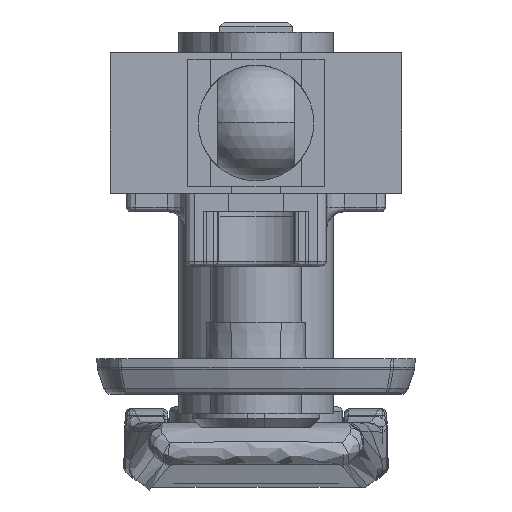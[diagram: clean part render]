
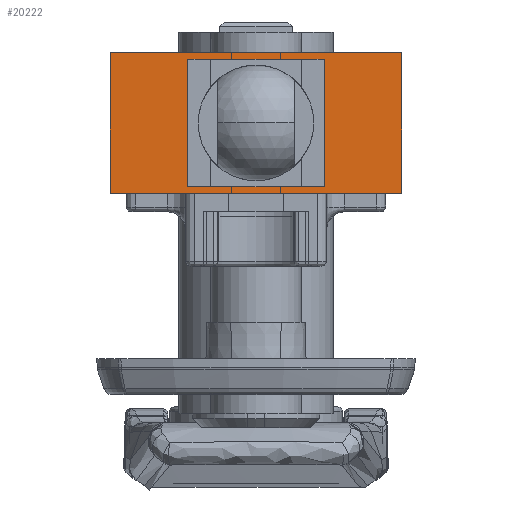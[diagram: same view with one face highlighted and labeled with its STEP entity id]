
A CAD part, front view. The second image highlights one B-rep face of the part: STEP entity #20222.
In plain terms, the highlighted planar face has unit normal (0, -1, 0).
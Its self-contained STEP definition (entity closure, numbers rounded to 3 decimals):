
#1368 = ORIENTED_EDGE ( 'NONE', *, *, #2451, .T. ) ;
#1449 = DIRECTION ( 'NONE',  ( 0., 0., -1. ) ) ;
#1734 = DIRECTION ( 'NONE',  ( 0., 0., 1. ) ) ;
#2254 = VERTEX_POINT ( 'NONE', #7451 ) ;
#2315 = VERTEX_POINT ( 'NONE', #16080 ) ;
#2451 = EDGE_CURVE ( 'NONE', #2254, #12411, #14406, .T. ) ;
#3872 = LINE ( 'NONE', #14252, #30225 ) ;
#4272 = CARTESIAN_POINT ( 'NONE',  ( 16., -199.25, 7.75 ) ) ;
#4426 = LINE ( 'NONE', #7315, #8705 ) ;
#4804 = CARTESIAN_POINT ( 'NONE',  ( 16., -199.25, 7.75 ) ) ;
#5233 = EDGE_CURVE ( 'NONE', #2254, #26938, #28919, .T. ) ;
#5247 = VERTEX_POINT ( 'NONE', #18907 ) ;
#5376 = VECTOR ( 'NONE', #15181, 1000. ) ;
#5569 = EDGE_CURVE ( 'NONE', #33054, #5247, #26478, .T. ) ;
#5647 = CARTESIAN_POINT ( 'NONE',  ( -16., -199.25, -7.75 ) ) ;
#7026 = VERTEX_POINT ( 'NONE', #23401 ) ;
#7315 = CARTESIAN_POINT ( 'NONE',  ( 7., -199.25, 6.25 ) ) ;
#7451 = CARTESIAN_POINT ( 'NONE',  ( -16., -199.25, 7.75 ) ) ;
#7518 = ORIENTED_EDGE ( 'NONE', *, *, #24883, .T. ) ;
#8705 = VECTOR ( 'NONE', #1734, 1000. ) ;
#8793 = DIRECTION ( 'NONE',  ( 0., 1., 0. ) ) ;
#8968 = CARTESIAN_POINT ( 'NONE',  ( -16., -199.25, -7.75 ) ) ;
#11487 = ORIENTED_EDGE ( 'NONE', *, *, #12045, .F. ) ;
#11516 = DIRECTION ( 'NONE',  ( 0., 0., 1. ) ) ;
#12045 = EDGE_CURVE ( 'NONE', #7026, #2315, #3872, .T. ) ;
#12275 = EDGE_CURVE ( 'NONE', #26938, #30579, #28023, .T. ) ;
#12411 = VERTEX_POINT ( 'NONE', #5647 ) ;
#13892 = FACE_BOUND ( 'NONE', #32588, .T. ) ;
#14252 = CARTESIAN_POINT ( 'NONE',  ( -7., -199.25, -6.25 ) ) ;
#14331 = AXIS2_PLACEMENT_3D ( 'NONE', #32011, #8793, #11516 ) ;
#14406 = LINE ( 'NONE', #22325, #15389 ) ;
#15181 = DIRECTION ( 'NONE',  ( 0., 0., -1. ) ) ;
#15389 = VECTOR ( 'NONE', #32691, 1000. ) ;
#16080 = CARTESIAN_POINT ( 'NONE',  ( 7., -199.25, -6.25 ) ) ;
#17543 = ORIENTED_EDGE ( 'NONE', *, *, #25168, .F. ) ;
#18507 = CARTESIAN_POINT ( 'NONE',  ( 16., -199.25, -7.75 ) ) ;
#18674 = ORIENTED_EDGE ( 'NONE', *, *, #30730, .F. ) ;
#18740 = CARTESIAN_POINT ( 'NONE',  ( -16., -199.25, 7.75 ) ) ;
#18907 = CARTESIAN_POINT ( 'NONE',  ( -7., -199.25, 6.25 ) ) ;
#19270 = DIRECTION ( 'NONE',  ( 1., 0., 0. ) ) ;
#19395 = LINE ( 'NONE', #26503, #24736 ) ;
#20222 = ADVANCED_FACE ( 'NONE', ( #13892, #24176 ), #21636, .F. ) ;
#21636 = PLANE ( 'NONE',  #14331 ) ;
#22325 = CARTESIAN_POINT ( 'NONE',  ( -16., -199.25, 7.75 ) ) ;
#23134 = VECTOR ( 'NONE', #29086, 1000. ) ;
#23401 = CARTESIAN_POINT ( 'NONE',  ( -7., -199.25, -6.25 ) ) ;
#23563 = EDGE_LOOP ( 'NONE', ( #7518, #31406, #24623, #1368 ) ) ;
#23943 = DIRECTION ( 'NONE',  ( -1., 0., 0. ) ) ;
#24176 = FACE_OUTER_BOUND ( 'NONE', #23563, .T. ) ;
#24526 = DIRECTION ( 'NONE',  ( 1., 0., 0. ) ) ;
#24623 = ORIENTED_EDGE ( 'NONE', *, *, #5233, .F. ) ;
#24736 = VECTOR ( 'NONE', #1449, 1000. ) ;
#24883 = EDGE_CURVE ( 'NONE', #12411, #30579, #32184, .T. ) ;
#25168 = EDGE_CURVE ( 'NONE', #5247, #7026, #19395, .T. ) ;
#26141 = CARTESIAN_POINT ( 'NONE',  ( 7., -199.25, 6.25 ) ) ;
#26478 = LINE ( 'NONE', #26141, #31813 ) ;
#26503 = CARTESIAN_POINT ( 'NONE',  ( -7., -199.25, -6.25 ) ) ;
#26938 = VERTEX_POINT ( 'NONE', #4272 ) ;
#27347 = ORIENTED_EDGE ( 'NONE', *, *, #5569, .F. ) ;
#27384 = VECTOR ( 'NONE', #19270, 1000. ) ;
#28023 = LINE ( 'NONE', #4804, #5376 ) ;
#28919 = LINE ( 'NONE', #18740, #23134 ) ;
#29086 = DIRECTION ( 'NONE',  ( 1., 0., 0. ) ) ;
#30225 = VECTOR ( 'NONE', #24526, 1000. ) ;
#30579 = VERTEX_POINT ( 'NONE', #18507 ) ;
#30730 = EDGE_CURVE ( 'NONE', #2315, #33054, #4426, .T. ) ;
#31406 = ORIENTED_EDGE ( 'NONE', *, *, #12275, .F. ) ;
#31813 = VECTOR ( 'NONE', #23943, 1000. ) ;
#32011 = CARTESIAN_POINT ( 'NONE',  ( -16., -199.25, 7.75 ) ) ;
#32184 = LINE ( 'NONE', #8968, #27384 ) ;
#32588 = EDGE_LOOP ( 'NONE', ( #17543, #27347, #18674, #11487 ) ) ;
#32691 = DIRECTION ( 'NONE',  ( 0., 0., -1. ) ) ;
#32920 = CARTESIAN_POINT ( 'NONE',  ( 7., -199.25, 6.25 ) ) ;
#33054 = VERTEX_POINT ( 'NONE', #32920 ) ;
